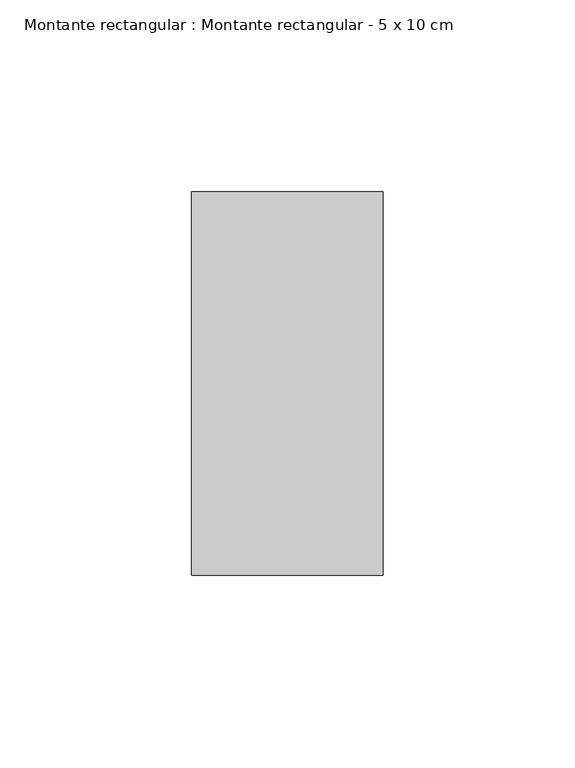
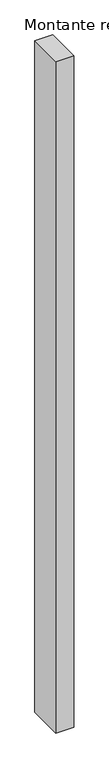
"""IFC4 building model written with IfcOpenShell, lengths in millimetres: member geometry, Montante rectangular : Montante rectangular - 5 x 10 cm."""

from ifc_helpers import new_model, si_unit, frame, origin, place, context, project, spatial, polyline, outline, extrude, source, transform, mapped, element, save


def montante_rectangular_montante_rectangular_5_x_10_cm_1499a912(model_context):
    return source(origin(), model_context, "Body", "SweptSolid", [
        extrude(outline(polyline([(25.0, 50.0), (25.0, -50.0), (-25.0, -50.0), (-25.0, 50.0), (25.0, 50.0)])), frame((0.0, 0.0, -1970.0), z_axis=(0.0, 0.0, 1.0), x_axis=(1.0, 0.0, 0.0)), (0.0, 0.0, 1.0), 1970.0),
    ])


if __name__ == "__main__":
    model = new_model("IFC4")
    model_context = context("Model", 3, world=origin())
    ifc_project = project(units=[si_unit("LENGTHUNIT", "METRE", prefix="MILLI")], contexts=[model_context])
    site = spatial("IfcSite", under=ifc_project)
    building = spatial("IfcBuilding", under=site)
    placement = place(None, origin())
    montante_rectangular_montante_rectangular_5_x_10_cm_shape = montante_rectangular_montante_rectangular_5_x_10_cm_1499a912(model_context)
    element("IfcMember", 1, ObjectType="Montante rectangular : Montante rectangular - 5 x 10 cm", at=placement, inside=building, context=model_context, shape_type="MappedRepresentation", body=[
        mapped(montante_rectangular_montante_rectangular_5_x_10_cm_shape, transform((0.0, 0.0, 0.0), x_axis=(1.0, 0.0, 0.0), y_axis=(0.0, 1.0, 0.0), z_axis=(0.0, 0.0, 1.0))),
    ])
    save(model, "model.ifc")
